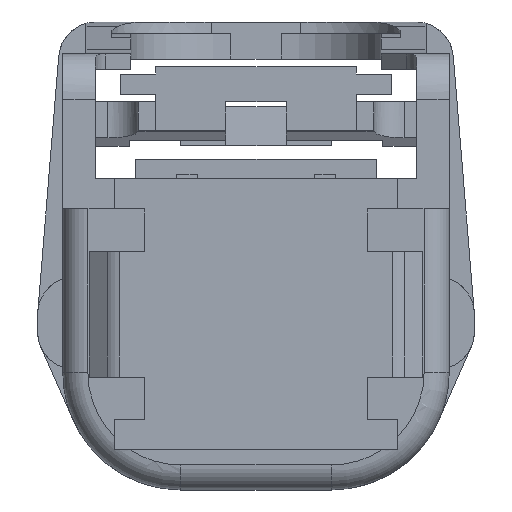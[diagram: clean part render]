
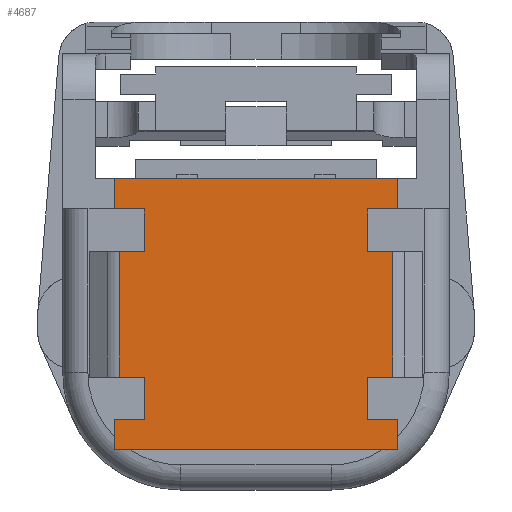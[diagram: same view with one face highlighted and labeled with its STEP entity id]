
A CAD part, left-side view. The second image highlights one B-rep face of the part: STEP entity #4687.
In plain terms, the highlighted planar face has unit normal (-1, 0, 0).
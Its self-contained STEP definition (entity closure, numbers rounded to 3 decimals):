
#4651=AXIS2_PLACEMENT_3D('Plane Axis2P3D',#4648,#4649,#4650) ;
#1563=CARTESIAN_POINT('Vertex',(-27.2,5.45,3.075)) ;
#1566=CARTESIAN_POINT('Line Origine',(-27.2,5.45,3.925)) ;
#1570=CARTESIAN_POINT('Vertex',(-27.2,5.45,4.775)) ;
#1594=CARTESIAN_POINT('Vertex',(-27.2,6.45,3.075)) ;
#1597=CARTESIAN_POINT('Line Origine',(-27.2,5.95,3.075)) ;
#1622=CARTESIAN_POINT('Vertex',(-27.2,6.45,-1.925)) ;
#1625=CARTESIAN_POINT('Line Origine',(-27.2,6.45,0.575)) ;
#1646=CARTESIAN_POINT('Vertex',(-27.2,5.45,-1.925)) ;
#1649=CARTESIAN_POINT('Line Origine',(-27.2,5.95,-1.925)) ;
#1674=CARTESIAN_POINT('Vertex',(-27.2,5.45,-3.625)) ;
#1677=CARTESIAN_POINT('Line Origine',(-27.2,5.45,-2.775)) ;
#1698=CARTESIAN_POINT('Vertex',(-27.2,6.65,-3.625)) ;
#1701=CARTESIAN_POINT('Line Origine',(-27.2,6.05,-3.625)) ;
#1718=CARTESIAN_POINT('Line Origine',(-27.2,6.65,-4.225)) ;
#1722=CARTESIAN_POINT('Vertex',(-27.2,6.65,-4.825)) ;
#1767=CARTESIAN_POINT('Vertex',(-27.2,-4.65,-4.825)) ;
#1770=CARTESIAN_POINT('Line Origine',(-27.2,1.,-4.825)) ;
#1809=CARTESIAN_POINT('Vertex',(-27.2,-4.65,-3.625)) ;
#1812=CARTESIAN_POINT('Line Origine',(-27.2,-4.65,-4.225)) ;
#1829=CARTESIAN_POINT('Vertex',(-27.2,-3.45,-3.625)) ;
#1832=CARTESIAN_POINT('Line Origine',(-27.2,-4.05,-3.625)) ;
#1853=CARTESIAN_POINT('Vertex',(-27.2,-3.45,-1.925)) ;
#1856=CARTESIAN_POINT('Line Origine',(-27.2,-3.45,-2.775)) ;
#1872=CARTESIAN_POINT('Vertex',(-27.2,-4.45,-1.925)) ;
#1875=CARTESIAN_POINT('Line Origine',(-27.2,-3.95,-1.925)) ;
#1900=CARTESIAN_POINT('Vertex',(-27.2,-4.45,3.075)) ;
#1903=CARTESIAN_POINT('Line Origine',(-27.2,-4.45,0.575)) ;
#1919=CARTESIAN_POINT('Vertex',(-27.2,-3.45,3.075)) ;
#1922=CARTESIAN_POINT('Line Origine',(-27.2,-3.95,3.075)) ;
#1947=CARTESIAN_POINT('Vertex',(-27.2,-3.45,4.775)) ;
#1950=CARTESIAN_POINT('Line Origine',(-27.2,-3.45,3.925)) ;
#2675=CARTESIAN_POINT('Vertex',(-27.2,-4.65,4.775)) ;
#2678=CARTESIAN_POINT('Line Origine',(-27.2,-4.05,4.775)) ;
#2922=CARTESIAN_POINT('Line Origine',(-27.2,6.05,4.775)) ;
#2926=CARTESIAN_POINT('Vertex',(-27.2,6.65,4.775)) ;
#4626=CARTESIAN_POINT('Vertex',(-27.2,-4.65,5.975)) ;
#4631=CARTESIAN_POINT('Line Origine',(-27.2,-4.65,5.375)) ;
#4648=CARTESIAN_POINT('Axis2P3D Location',(-27.2,1.,0.225)) ;
#4653=CARTESIAN_POINT('Line Origine',(-27.2,1.,5.975)) ;
#4657=CARTESIAN_POINT('Vertex',(-27.2,6.65,5.975)) ;
#4660=CARTESIAN_POINT('Line Origine',(-27.2,6.65,5.375)) ;
#1567=DIRECTION('Vector Direction',(0.,0.,-1.)) ;
#1598=DIRECTION('Vector Direction',(0.,1.,0.)) ;
#1626=DIRECTION('Vector Direction',(0.,0.,-1.)) ;
#1650=DIRECTION('Vector Direction',(0.,-1.,0.)) ;
#1678=DIRECTION('Vector Direction',(0.,0.,-1.)) ;
#1702=DIRECTION('Vector Direction',(0.,1.,0.)) ;
#1719=DIRECTION('Vector Direction',(0.,0.,-1.)) ;
#1771=DIRECTION('Vector Direction',(0.,-1.,0.)) ;
#1813=DIRECTION('Vector Direction',(0.,0.,-1.)) ;
#1833=DIRECTION('Vector Direction',(0.,-1.,0.)) ;
#1857=DIRECTION('Vector Direction',(0.,0.,-1.)) ;
#1876=DIRECTION('Vector Direction',(0.,1.,0.)) ;
#1904=DIRECTION('Vector Direction',(0.,0.,-1.)) ;
#1923=DIRECTION('Vector Direction',(0.,-1.,0.)) ;
#1951=DIRECTION('Vector Direction',(0.,0.,-1.)) ;
#2679=DIRECTION('Vector Direction',(0.,1.,0.)) ;
#2923=DIRECTION('Vector Direction',(0.,-1.,0.)) ;
#4632=DIRECTION('Vector Direction',(0.,0.,-1.)) ;
#4649=DIRECTION('Axis2P3D Direction',(-1.,0.,0.)) ;
#4650=DIRECTION('Axis2P3D XDirection',(0.,-1.,0.)) ;
#4654=DIRECTION('Vector Direction',(0.,1.,0.)) ;
#4661=DIRECTION('Vector Direction',(0.,0.,-1.)) ;
#1568=VECTOR('Line Direction',#1567,1.) ;
#1599=VECTOR('Line Direction',#1598,1.) ;
#1627=VECTOR('Line Direction',#1626,1.) ;
#1651=VECTOR('Line Direction',#1650,1.) ;
#1679=VECTOR('Line Direction',#1678,1.) ;
#1703=VECTOR('Line Direction',#1702,1.) ;
#1720=VECTOR('Line Direction',#1719,1.) ;
#1772=VECTOR('Line Direction',#1771,1.) ;
#1814=VECTOR('Line Direction',#1813,1.) ;
#1834=VECTOR('Line Direction',#1833,1.) ;
#1858=VECTOR('Line Direction',#1857,1.) ;
#1877=VECTOR('Line Direction',#1876,1.) ;
#1905=VECTOR('Line Direction',#1904,1.) ;
#1924=VECTOR('Line Direction',#1923,1.) ;
#1952=VECTOR('Line Direction',#1951,1.) ;
#2680=VECTOR('Line Direction',#2679,1.) ;
#2924=VECTOR('Line Direction',#2923,1.) ;
#4633=VECTOR('Line Direction',#4632,1.) ;
#4655=VECTOR('Line Direction',#4654,1.) ;
#4662=VECTOR('Line Direction',#4661,1.) ;
#4666=ORIENTED_EDGE('',*,*,#1681,.T.) ;
#4667=ORIENTED_EDGE('',*,*,#1705,.T.) ;
#4668=ORIENTED_EDGE('',*,*,#1724,.T.) ;
#4669=ORIENTED_EDGE('',*,*,#1774,.T.) ;
#4670=ORIENTED_EDGE('',*,*,#1816,.T.) ;
#4671=ORIENTED_EDGE('',*,*,#1836,.T.) ;
#4672=ORIENTED_EDGE('',*,*,#1860,.T.) ;
#4673=ORIENTED_EDGE('',*,*,#1879,.T.) ;
#4674=ORIENTED_EDGE('',*,*,#1907,.T.) ;
#4675=ORIENTED_EDGE('',*,*,#1926,.T.) ;
#4676=ORIENTED_EDGE('',*,*,#1954,.T.) ;
#4677=ORIENTED_EDGE('',*,*,#2682,.T.) ;
#4678=ORIENTED_EDGE('',*,*,#4635,.T.) ;
#4679=ORIENTED_EDGE('',*,*,#4659,.T.) ;
#4680=ORIENTED_EDGE('',*,*,#4664,.T.) ;
#4681=ORIENTED_EDGE('',*,*,#2928,.T.) ;
#4682=ORIENTED_EDGE('',*,*,#1572,.T.) ;
#4683=ORIENTED_EDGE('',*,*,#1601,.T.) ;
#4684=ORIENTED_EDGE('',*,*,#1629,.T.) ;
#4685=ORIENTED_EDGE('',*,*,#1653,.T.) ;
#4687=ADVANCED_FACE('\X2\FF8AFF9FFF70FF82\X0\ \X2\FF8EFF9EFF83FF9EFF68FF70\X0\',(#4686),#4652,.T.) ;
#1572=EDGE_CURVE('',#1571,#1564,#1569,.T.) ;
#1601=EDGE_CURVE('',#1564,#1595,#1600,.T.) ;
#1629=EDGE_CURVE('',#1595,#1623,#1628,.T.) ;
#1653=EDGE_CURVE('',#1623,#1647,#1652,.T.) ;
#1681=EDGE_CURVE('',#1647,#1675,#1680,.T.) ;
#1705=EDGE_CURVE('',#1675,#1699,#1704,.T.) ;
#1724=EDGE_CURVE('',#1699,#1723,#1721,.T.) ;
#1774=EDGE_CURVE('',#1723,#1768,#1773,.T.) ;
#1816=EDGE_CURVE('',#1768,#1810,#1815,.F.) ;
#1836=EDGE_CURVE('',#1810,#1830,#1835,.F.) ;
#1860=EDGE_CURVE('',#1830,#1854,#1859,.F.) ;
#1879=EDGE_CURVE('',#1854,#1873,#1878,.F.) ;
#1907=EDGE_CURVE('',#1873,#1901,#1906,.F.) ;
#1926=EDGE_CURVE('',#1901,#1920,#1925,.F.) ;
#1954=EDGE_CURVE('',#1920,#1948,#1953,.F.) ;
#2682=EDGE_CURVE('',#1948,#2676,#2681,.F.) ;
#2928=EDGE_CURVE('',#2927,#1571,#2925,.T.) ;
#4635=EDGE_CURVE('',#2676,#4627,#4634,.F.) ;
#4659=EDGE_CURVE('',#4627,#4658,#4656,.T.) ;
#4664=EDGE_CURVE('',#4658,#2927,#4663,.T.) ;
#4665=EDGE_LOOP('',(#4666,#4667,#4668,#4669,#4670,#4671,#4672,#4673,#4674,#4675,#4676,#4677,#4678,#4679,#4680,#4681,#4682,#4683,#4684,#4685)) ;
#4686=FACE_OUTER_BOUND('',#4665,.T.) ;
#1569=LINE('Line',#1566,#1568) ;
#1600=LINE('Line',#1597,#1599) ;
#1628=LINE('Line',#1625,#1627) ;
#1652=LINE('Line',#1649,#1651) ;
#1680=LINE('Line',#1677,#1679) ;
#1704=LINE('Line',#1701,#1703) ;
#1721=LINE('Line',#1718,#1720) ;
#1773=LINE('Line',#1770,#1772) ;
#1815=LINE('Line',#1812,#1814) ;
#1835=LINE('Line',#1832,#1834) ;
#1859=LINE('Line',#1856,#1858) ;
#1878=LINE('Line',#1875,#1877) ;
#1906=LINE('Line',#1903,#1905) ;
#1925=LINE('Line',#1922,#1924) ;
#1953=LINE('Line',#1950,#1952) ;
#2681=LINE('Line',#2678,#2680) ;
#2925=LINE('Line',#2922,#2924) ;
#4634=LINE('Line',#4631,#4633) ;
#4656=LINE('Line',#4653,#4655) ;
#4663=LINE('Line',#4660,#4662) ;
#4652=PLANE('',#4651) ;
#1564=VERTEX_POINT('',#1563) ;
#1571=VERTEX_POINT('',#1570) ;
#1595=VERTEX_POINT('',#1594) ;
#1623=VERTEX_POINT('',#1622) ;
#1647=VERTEX_POINT('',#1646) ;
#1675=VERTEX_POINT('',#1674) ;
#1699=VERTEX_POINT('',#1698) ;
#1723=VERTEX_POINT('',#1722) ;
#1768=VERTEX_POINT('',#1767) ;
#1810=VERTEX_POINT('',#1809) ;
#1830=VERTEX_POINT('',#1829) ;
#1854=VERTEX_POINT('',#1853) ;
#1873=VERTEX_POINT('',#1872) ;
#1901=VERTEX_POINT('',#1900) ;
#1920=VERTEX_POINT('',#1919) ;
#1948=VERTEX_POINT('',#1947) ;
#2676=VERTEX_POINT('',#2675) ;
#2927=VERTEX_POINT('',#2926) ;
#4627=VERTEX_POINT('',#4626) ;
#4658=VERTEX_POINT('',#4657) ;
